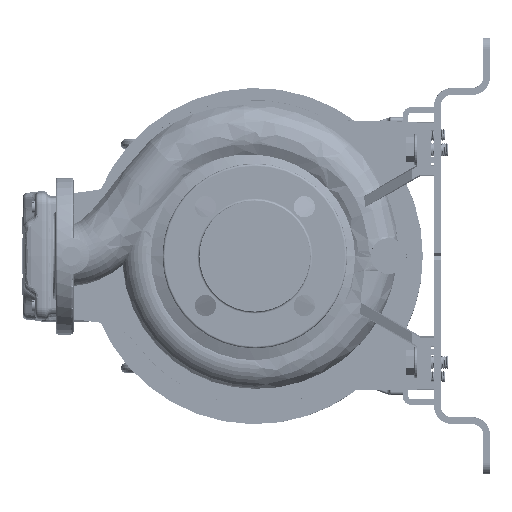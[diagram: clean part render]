
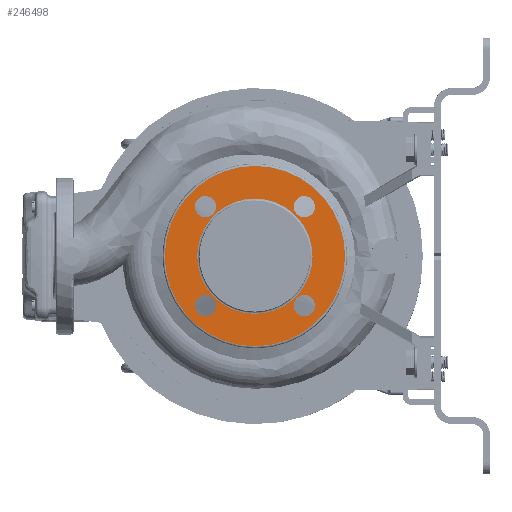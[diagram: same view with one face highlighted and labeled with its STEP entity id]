
A CAD part, left-side view. The second image highlights one B-rep face of the part: STEP entity #246498.
In plain terms, the highlighted planar face has unit normal (-1, 0, 0).
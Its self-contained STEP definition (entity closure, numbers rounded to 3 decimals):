
#2157 = ORIENTED_EDGE ( 'NONE', *, *, #198494, .F. ) ;
#2655 = DIRECTION ( 'NONE',  ( 1., 0., 0. ) ) ;
#3429 = EDGE_LOOP ( 'NONE', ( #16459, #87628 ) ) ;
#4367 = ORIENTED_EDGE ( 'NONE', *, *, #138642, .F. ) ;
#8960 = EDGE_CURVE ( 'NONE', #27951, #211028, #192011, .T. ) ;
#11024 = ORIENTED_EDGE ( 'NONE', *, *, #101440, .F. ) ;
#13661 = AXIS2_PLACEMENT_3D ( 'NONE', #60314, #77976, #155019 ) ;
#16459 = ORIENTED_EDGE ( 'NONE', *, *, #222731, .T. ) ;
#20555 = EDGE_CURVE ( 'NONE', #160416, #66227, #83810, .T. ) ;
#25534 = VERTEX_POINT ( 'NONE', #103116 ) ;
#27951 = VERTEX_POINT ( 'NONE', #52014 ) ;
#28000 = DIRECTION ( 'NONE',  ( 0., -1., 0. ) ) ;
#33249 = DIRECTION ( 'NONE',  ( 0., 0., -1. ) ) ;
#35963 = DIRECTION ( 'NONE',  ( -1., 0., 0. ) ) ;
#40837 = CARTESIAN_POINT ( 'NONE',  ( -121.332, 244.869, 340.669 ) ) ;
#41948 = CARTESIAN_POINT ( 'NONE',  ( -121.332, 200.675, 296.475 ) ) ;
#46747 = DIRECTION ( 'NONE',  ( -1., 0., 0. ) ) ;
#48031 = DIRECTION ( 'NONE',  ( -1., 0., 0. ) ) ;
#49453 = AXIS2_PLACEMENT_3D ( 'NONE', #86488, #84009, #220432 ) ;
#52014 = CARTESIAN_POINT ( 'NONE',  ( -121.332, 146.98, 252.281 ) ) ;
#55174 = AXIS2_PLACEMENT_3D ( 'NONE', #219371, #149441, #33249 ) ;
#55888 = FACE_BOUND ( 'NONE', #113181, .T. ) ;
#59659 = VERTEX_POINT ( 'NONE', #123558 ) ;
#60314 = CARTESIAN_POINT ( 'NONE',  ( -121.332, 244.869, 340.669 ) ) ;
#60921 = DIRECTION ( 'NONE',  ( -1., 0., 0. ) ) ;
#63635 = AXIS2_PLACEMENT_3D ( 'NONE', #41948, #60921, #28000 ) ;
#66227 = VERTEX_POINT ( 'NONE', #119631 ) ;
#69965 = VERTEX_POINT ( 'NONE', #214141 ) ;
#72629 = DIRECTION ( 'NONE',  ( 0., -1., 0. ) ) ;
#75952 = CARTESIAN_POINT ( 'NONE',  ( -121.332, 156.48, 252.281 ) ) ;
#76108 = FACE_BOUND ( 'NONE', #174971, .T. ) ;
#76323 = DIRECTION ( 'NONE',  ( -1., 0., 0. ) ) ;
#77976 = DIRECTION ( 'NONE',  ( -1., 0., 0. ) ) ;
#78255 = CARTESIAN_POINT ( 'NONE',  ( -121.332, 254.369, 340.669 ) ) ;
#78404 = VERTEX_POINT ( 'NONE', #88243 ) ;
#79051 = CARTESIAN_POINT ( 'NONE',  ( -121.332, 149.175, 296.475 ) ) ;
#79288 = CARTESIAN_POINT ( 'NONE',  ( -121.332, 200.675, 296.475 ) ) ;
#79341 = ORIENTED_EDGE ( 'NONE', *, *, #157626, .F. ) ;
#79987 = DIRECTION ( 'NONE',  ( -1., 0., 0. ) ) ;
#83810 = CIRCLE ( 'NONE', #63635, 80.5 ) ;
#84009 = DIRECTION ( 'NONE',  ( -1., 0., 0. ) ) ;
#84621 = CIRCLE ( 'NONE', #201499, 9.5 ) ;
#86488 = CARTESIAN_POINT ( 'NONE',  ( -121.332, 156.48, 340.669 ) ) ;
#87124 = EDGE_LOOP ( 'NONE', ( #139409, #79341 ) ) ;
#87146 = AXIS2_PLACEMENT_3D ( 'NONE', #40837, #79987, #194902 ) ;
#87628 = ORIENTED_EDGE ( 'NONE', *, *, #20555, .T. ) ;
#88243 = CARTESIAN_POINT ( 'NONE',  ( -121.332, 165.98, 340.669 ) ) ;
#89492 = ORIENTED_EDGE ( 'NONE', *, *, #220001, .F. ) ;
#98782 = FACE_BOUND ( 'NONE', #179901, .T. ) ;
#101388 = EDGE_LOOP ( 'NONE', ( #181044, #235144 ) ) ;
#101440 = EDGE_CURVE ( 'NONE', #133551, #59659, #167722, .T. ) ;
#103027 = DIRECTION ( 'NONE',  ( -1., 0., 0. ) ) ;
#103116 = CARTESIAN_POINT ( 'NONE',  ( -121.332, 146.98, 340.669 ) ) ;
#108282 = ORIENTED_EDGE ( 'NONE', *, *, #236289, .F. ) ;
#109457 = CIRCLE ( 'NONE', #149641, 51.5 ) ;
#110729 = ORIENTED_EDGE ( 'NONE', *, *, #223792, .F. ) ;
#113181 = EDGE_LOOP ( 'NONE', ( #4367, #89492 ) ) ;
#114014 = FACE_OUTER_BOUND ( 'NONE', #3429, .T. ) ;
#114128 = CARTESIAN_POINT ( 'NONE',  ( -121.332, 252.175, 296.475 ) ) ;
#119631 = CARTESIAN_POINT ( 'NONE',  ( -121.332, 120.175, 296.475 ) ) ;
#121854 = EDGE_CURVE ( 'NONE', #78404, #25534, #202786, .T. ) ;
#122005 = CARTESIAN_POINT ( 'NONE',  ( -121.332, 244.869, 252.281 ) ) ;
#123558 = CARTESIAN_POINT ( 'NONE',  ( -121.332, 235.369, 340.669 ) ) ;
#126254 = CIRCLE ( 'NONE', #138330, 9.5 ) ;
#131070 = EDGE_CURVE ( 'NONE', #25534, #78404, #192330, .T. ) ;
#131555 = DIRECTION ( 'NONE',  ( 0., 1., 0. ) ) ;
#133551 = VERTEX_POINT ( 'NONE', #78255 ) ;
#134061 = DIRECTION ( 'NONE',  ( -1., 0., 0. ) ) ;
#135832 = CIRCLE ( 'NONE', #200176, 51.5 ) ;
#138330 = AXIS2_PLACEMENT_3D ( 'NONE', #75952, #134061, #131555 ) ;
#138642 = EDGE_CURVE ( 'NONE', #166272, #69965, #84621, .T. ) ;
#139409 = ORIENTED_EDGE ( 'NONE', *, *, #8960, .F. ) ;
#141184 = DIRECTION ( 'NONE',  ( 0., -1., 0. ) ) ;
#142826 = CARTESIAN_POINT ( 'NONE',  ( -121.332, 235.369, 252.281 ) ) ;
#146906 = FACE_BOUND ( 'NONE', #101388, .T. ) ;
#148409 = CARTESIAN_POINT ( 'NONE',  ( -121.332, 200.675, 296.475 ) ) ;
#149441 = DIRECTION ( 'NONE',  ( -1., 0., 0. ) ) ;
#149641 = AXIS2_PLACEMENT_3D ( 'NONE', #181941, #48031, #161772 ) ;
#152138 = DIRECTION ( 'NONE',  ( 0., 1., 0. ) ) ;
#155019 = DIRECTION ( 'NONE',  ( 0., -1., 0. ) ) ;
#155853 = AXIS2_PLACEMENT_3D ( 'NONE', #210215, #76323, #152138 ) ;
#157626 = EDGE_CURVE ( 'NONE', #211028, #27951, #126254, .T. ) ;
#160416 = VERTEX_POINT ( 'NONE', #229901 ) ;
#161772 = DIRECTION ( 'NONE',  ( 0., -1., 0. ) ) ;
#166272 = VERTEX_POINT ( 'NONE', #142826 ) ;
#167722 = CIRCLE ( 'NONE', #87146, 9.5 ) ;
#174508 = PLANE ( 'NONE',  #236502 ) ;
#174971 = EDGE_LOOP ( 'NONE', ( #108282, #2157 ) ) ;
#178991 = DIRECTION ( 'NONE',  ( -1., 0., 0. ) ) ;
#179901 = EDGE_LOOP ( 'NONE', ( #110729, #11024 ) ) ;
#181044 = ORIENTED_EDGE ( 'NONE', *, *, #131070, .F. ) ;
#181941 = CARTESIAN_POINT ( 'NONE',  ( -121.332, 200.675, 296.475 ) ) ;
#187587 = AXIS2_PLACEMENT_3D ( 'NONE', #122005, #103027, #191795 ) ;
#191795 = DIRECTION ( 'NONE',  ( 0., 0., 1. ) ) ;
#192011 = CIRCLE ( 'NONE', #155853, 9.5 ) ;
#192330 = CIRCLE ( 'NONE', #55174, 9.5 ) ;
#193506 = CARTESIAN_POINT ( 'NONE',  ( -121.332, 252.175, 296.475 ) ) ;
#194902 = DIRECTION ( 'NONE',  ( 0., -1., 0. ) ) ;
#198494 = EDGE_CURVE ( 'NONE', #242029, #226040, #135832, .T. ) ;
#198796 = AXIS2_PLACEMENT_3D ( 'NONE', #148409, #35963, #72629 ) ;
#200176 = AXIS2_PLACEMENT_3D ( 'NONE', #79288, #178991, #141184 ) ;
#201499 = AXIS2_PLACEMENT_3D ( 'NONE', #240185, #46747, #242688 ) ;
#202786 = CIRCLE ( 'NONE', #49453, 9.5 ) ;
#210066 = CARTESIAN_POINT ( 'NONE',  ( -121.332, 165.98, 252.281 ) ) ;
#210215 = CARTESIAN_POINT ( 'NONE',  ( -121.332, 156.48, 252.281 ) ) ;
#211028 = VERTEX_POINT ( 'NONE', #210066 ) ;
#211996 = CIRCLE ( 'NONE', #187587, 9.5 ) ;
#214141 = CARTESIAN_POINT ( 'NONE',  ( -121.332, 254.369, 252.281 ) ) ;
#219371 = CARTESIAN_POINT ( 'NONE',  ( -121.332, 156.48, 340.669 ) ) ;
#219585 = CIRCLE ( 'NONE', #13661, 9.5 ) ;
#220001 = EDGE_CURVE ( 'NONE', #69965, #166272, #211996, .T. ) ;
#220432 = DIRECTION ( 'NONE',  ( 0., 0., -1. ) ) ;
#222731 = EDGE_CURVE ( 'NONE', #66227, #160416, #243342, .T. ) ;
#223792 = EDGE_CURVE ( 'NONE', #59659, #133551, #219585, .T. ) ;
#224027 = FACE_BOUND ( 'NONE', #87124, .T. ) ;
#226040 = VERTEX_POINT ( 'NONE', #79051 ) ;
#229901 = CARTESIAN_POINT ( 'NONE',  ( -121.332, 281.175, 296.475 ) ) ;
#231481 = DIRECTION ( 'NONE',  ( 0., 1., 0. ) ) ;
#235144 = ORIENTED_EDGE ( 'NONE', *, *, #121854, .F. ) ;
#236289 = EDGE_CURVE ( 'NONE', #226040, #242029, #109457, .T. ) ;
#236502 = AXIS2_PLACEMENT_3D ( 'NONE', #193506, #2655, #231481 ) ;
#240185 = CARTESIAN_POINT ( 'NONE',  ( -121.332, 244.869, 252.281 ) ) ;
#242029 = VERTEX_POINT ( 'NONE', #114128 ) ;
#242688 = DIRECTION ( 'NONE',  ( 0., 0., 1. ) ) ;
#243342 = CIRCLE ( 'NONE', #198796, 80.5 ) ;
#246498 = ADVANCED_FACE ( 'NONE', ( #146906, #224027, #55888, #98782, #76108, #114014 ), #174508, .F. ) ;
